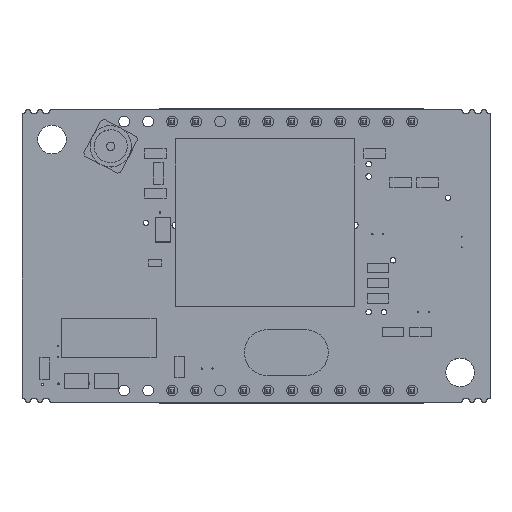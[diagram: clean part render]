
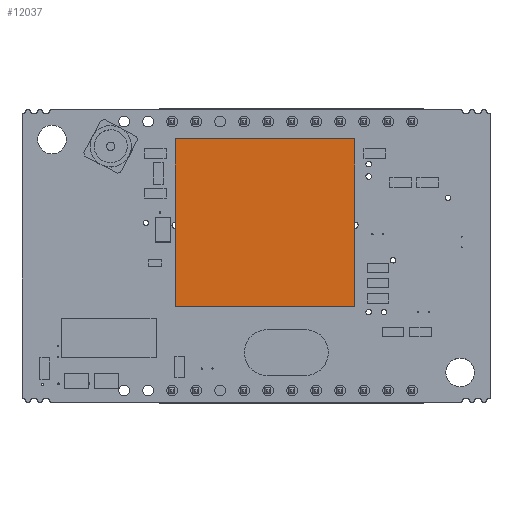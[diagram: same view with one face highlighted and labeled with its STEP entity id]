
A CAD part, top view. The second image highlights one B-rep face of the part: STEP entity #12037.
In plain terms, the highlighted planar face has unit normal (0, 0, 1) as drawn and (0, 1, 0) by its records, which use the part's own axes.
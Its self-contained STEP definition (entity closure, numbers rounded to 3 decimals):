
#236 = LINE ( 'NONE', #1831, #14789 ) ;
#547 = VERTEX_POINT ( 'NONE', #18068 ) ;
#1202 = DIRECTION ( 'NONE',  ( 0., 0., -1. ) ) ;
#1379 = CARTESIAN_POINT ( 'NONE',  ( -7.493, 2.54, 6.985 ) ) ;
#1831 = CARTESIAN_POINT ( 'NONE',  ( -7.493, 2.54, -6.985 ) ) ;
#2387 = LINE ( 'NONE', #2749, #18479 ) ;
#2749 = CARTESIAN_POINT ( 'NONE',  ( -7.493, 2.54, -6.985 ) ) ;
#2801 = CARTESIAN_POINT ( 'NONE',  ( 7.493, 2.54, -6.985 ) ) ;
#2983 = EDGE_CURVE ( 'NONE', #16819, #17797, #2387, .T. ) ;
#3588 = EDGE_CURVE ( 'NONE', #547, #16819, #12131, .T. ) ;
#3611 = VECTOR ( 'NONE', #1202, 1000. ) ;
#4949 = CARTESIAN_POINT ( 'NONE',  ( 0., 2.54, 0. ) ) ;
#6088 = LINE ( 'NONE', #1379, #9849 ) ;
#6683 = DIRECTION ( 'NONE',  ( 0., 0., 1. ) ) ;
#8181 = DIRECTION ( 'NONE',  ( 0., 1., 0. ) ) ;
#8392 = CARTESIAN_POINT ( 'NONE',  ( -7.493, 2.54, 6.985 ) ) ;
#8630 = FACE_OUTER_BOUND ( 'NONE', #14450, .T. ) ;
#9199 = CARTESIAN_POINT ( 'NONE',  ( -7.493, 2.54, -6.985 ) ) ;
#9400 = DIRECTION ( 'NONE',  ( 1., 0., 0. ) ) ;
#9849 = VECTOR ( 'NONE', #9400, 1000. ) ;
#10648 = AXIS2_PLACEMENT_3D ( 'NONE', #4949, #8181, #19392 ) ;
#11359 = ORIENTED_EDGE ( 'NONE', *, *, #19240, .T. ) ;
#11845 = ORIENTED_EDGE ( 'NONE', *, *, #16513, .T. ) ;
#12008 = ORIENTED_EDGE ( 'NONE', *, *, #3588, .T. ) ;
#12037 = ADVANCED_FACE ( 'NONE', ( #8630 ), #19321, .T. ) ;
#12131 = LINE ( 'NONE', #2801, #3611 ) ;
#12928 = ORIENTED_EDGE ( 'NONE', *, *, #2983, .T. ) ;
#14450 = EDGE_LOOP ( 'NONE', ( #11359, #11845, #12008, #12928 ) ) ;
#14789 = VECTOR ( 'NONE', #6683, 1000. ) ;
#15553 = VERTEX_POINT ( 'NONE', #8392 ) ;
#16513 = EDGE_CURVE ( 'NONE', #15553, #547, #6088, .T. ) ;
#16819 = VERTEX_POINT ( 'NONE', #18152 ) ;
#17797 = VERTEX_POINT ( 'NONE', #9199 ) ;
#18068 = CARTESIAN_POINT ( 'NONE',  ( 7.493, 2.54, 6.985 ) ) ;
#18152 = CARTESIAN_POINT ( 'NONE',  ( 7.493, 2.54, -6.985 ) ) ;
#18479 = VECTOR ( 'NONE', #18841, 1000. ) ;
#18841 = DIRECTION ( 'NONE',  ( -1., 0., 0. ) ) ;
#19240 = EDGE_CURVE ( 'NONE', #17797, #15553, #236, .T. ) ;
#19321 = PLANE ( 'NONE',  #10648 ) ;
#19392 = DIRECTION ( 'NONE',  ( 0., 0., 1. ) ) ;
